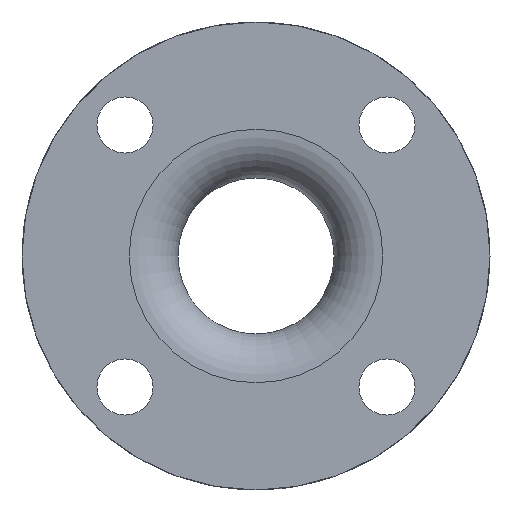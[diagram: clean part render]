
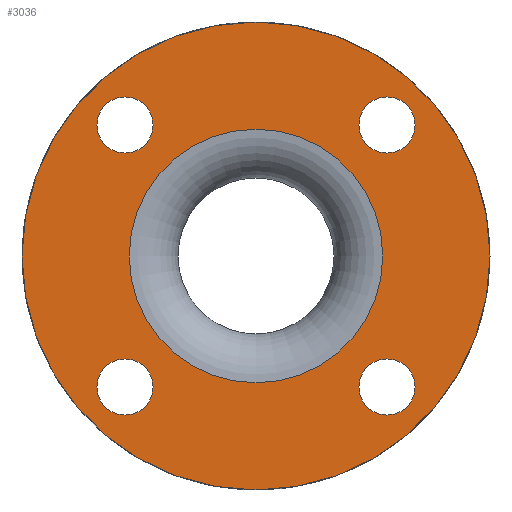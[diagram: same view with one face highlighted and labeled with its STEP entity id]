
A CAD part, front view. The second image highlights one B-rep face of the part: STEP entity #3036.
In plain terms, the highlighted planar face has unit normal (0, -1, 0).
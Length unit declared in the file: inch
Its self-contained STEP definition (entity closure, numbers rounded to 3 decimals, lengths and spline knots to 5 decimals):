
#170=FACE_BOUND('',#525,.T.);
#171=FACE_BOUND('',#526,.T.);
#172=FACE_BOUND('',#527,.T.);
#173=FACE_BOUND('',#528,.T.);
#174=FACE_BOUND('',#529,.T.);
#175=FACE_BOUND('',#530,.T.);
#525=EDGE_LOOP('',(#2325));
#526=EDGE_LOOP('',(#2326));
#527=EDGE_LOOP('',(#2327));
#528=EDGE_LOOP('',(#2328));
#529=EDGE_LOOP('',(#2329));
#530=EDGE_LOOP('',(#2330));
#1052=CIRCLE('',#3301,0.35985);
#1054=CIRCLE('',#3304,0.35985);
#1056=CIRCLE('',#3307,0.35985);
#1058=CIRCLE('',#3310,0.35985);
#1077=CIRCLE('',#3343,3.);
#1078=CIRCLE('',#3345,1.625);
#1316=VERTEX_POINT('',#4995);
#1318=VERTEX_POINT('',#5000);
#1320=VERTEX_POINT('',#5005);
#1322=VERTEX_POINT('',#5010);
#1341=VERTEX_POINT('',#5062);
#1342=VERTEX_POINT('',#5065);
#1668=EDGE_CURVE('',#1316,#1316,#1052,.T.);
#1670=EDGE_CURVE('',#1318,#1318,#1054,.T.);
#1672=EDGE_CURVE('',#1320,#1320,#1056,.T.);
#1674=EDGE_CURVE('',#1322,#1322,#1058,.T.);
#1693=EDGE_CURVE('',#1341,#1341,#1077,.T.);
#1694=EDGE_CURVE('',#1342,#1342,#1078,.T.);
#2325=ORIENTED_EDGE('',*,*,#1668,.T.);
#2326=ORIENTED_EDGE('',*,*,#1670,.T.);
#2327=ORIENTED_EDGE('',*,*,#1672,.T.);
#2328=ORIENTED_EDGE('',*,*,#1674,.T.);
#2329=ORIENTED_EDGE('',*,*,#1694,.F.);
#2330=ORIENTED_EDGE('',*,*,#1693,.T.);
#2748=PLANE('',#3344);
#3036=ADVANCED_FACE('',(#170,#171,#172,#173,#174,#175),#2748,.T.);
#3301=AXIS2_PLACEMENT_3D('',#4996,#3973,#3974);
#3304=AXIS2_PLACEMENT_3D('',#5001,#3979,#3980);
#3307=AXIS2_PLACEMENT_3D('',#5006,#3985,#3986);
#3310=AXIS2_PLACEMENT_3D('',#5011,#3991,#3992);
#3343=AXIS2_PLACEMENT_3D('',#5063,#4057,#4058);
#3344=AXIS2_PLACEMENT_3D('',#5064,#4059,#4060);
#3345=AXIS2_PLACEMENT_3D('',#5066,#4061,#4062);
#3973=DIRECTION('center_axis',(0.,1.,0.));
#3974=DIRECTION('ref_axis',(1.,0.,0.));
#3979=DIRECTION('center_axis',(0.,1.,0.));
#3980=DIRECTION('ref_axis',(0.,0.,
-1.));
#3985=DIRECTION('center_axis',(0.,1.,0.));
#3986=DIRECTION('ref_axis',(-1.,0.,0.));
#3991=DIRECTION('center_axis',(0.,1.,0.));
#3992=DIRECTION('ref_axis',(0.,0.,1.));
#4057=DIRECTION('center_axis',(0.,-1.,0.));
#4058=DIRECTION('ref_axis',(1.,0.,0.));
#4059=DIRECTION('center_axis',(0.,-1.,0.));
#4060=DIRECTION('ref_axis',(0.,0.,-1.));
#4061=DIRECTION('center_axis',(0.,-1.,0.));
#4062=DIRECTION('ref_axis',(1.,0.,0.));
#4995=CARTESIAN_POINT('',(1.31953,-6.,-1.67938));
#4996=CARTESIAN_POINT('Origin',(1.67938,-6.,-1.67938));
#5000=CARTESIAN_POINT('',(-1.67938,-6.,-1.31953));
#5001=CARTESIAN_POINT('Origin',(-1.67938,-6.,-1.67938));
#5005=CARTESIAN_POINT('',(-1.31953,-6.,1.67938));
#5006=CARTESIAN_POINT('Origin',(-1.67938,-6.,1.67938));
#5010=CARTESIAN_POINT('',(1.67938,-6.,1.31953));
#5011=CARTESIAN_POINT('Origin',(1.67938,-6.,1.67938));
#5062=CARTESIAN_POINT('',(3.,-6.,0.));
#5063=CARTESIAN_POINT('Origin',(0.,-6.,
0.));
#5064=CARTESIAN_POINT('Origin',(2.3125,-6.,0.));
#5065=CARTESIAN_POINT('',(1.625,-6.,0.));
#5066=CARTESIAN_POINT('Origin',(0.,-6.,
0.));
